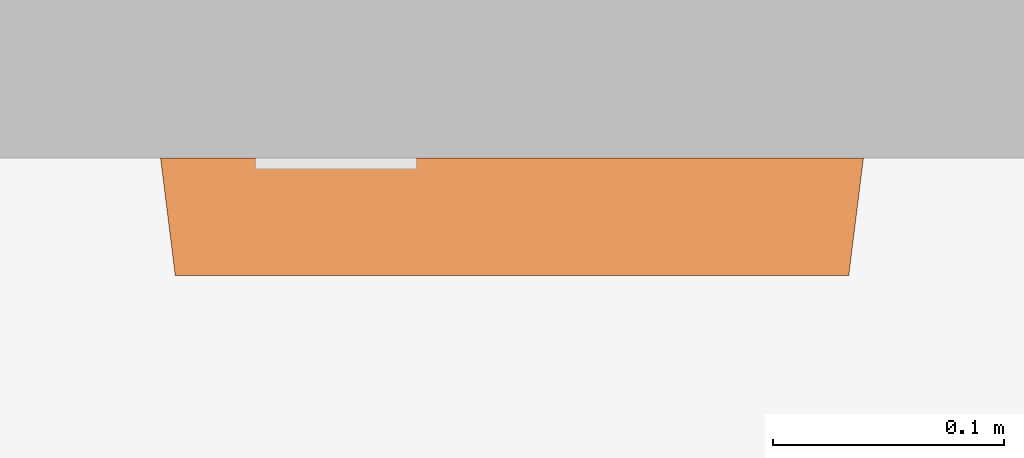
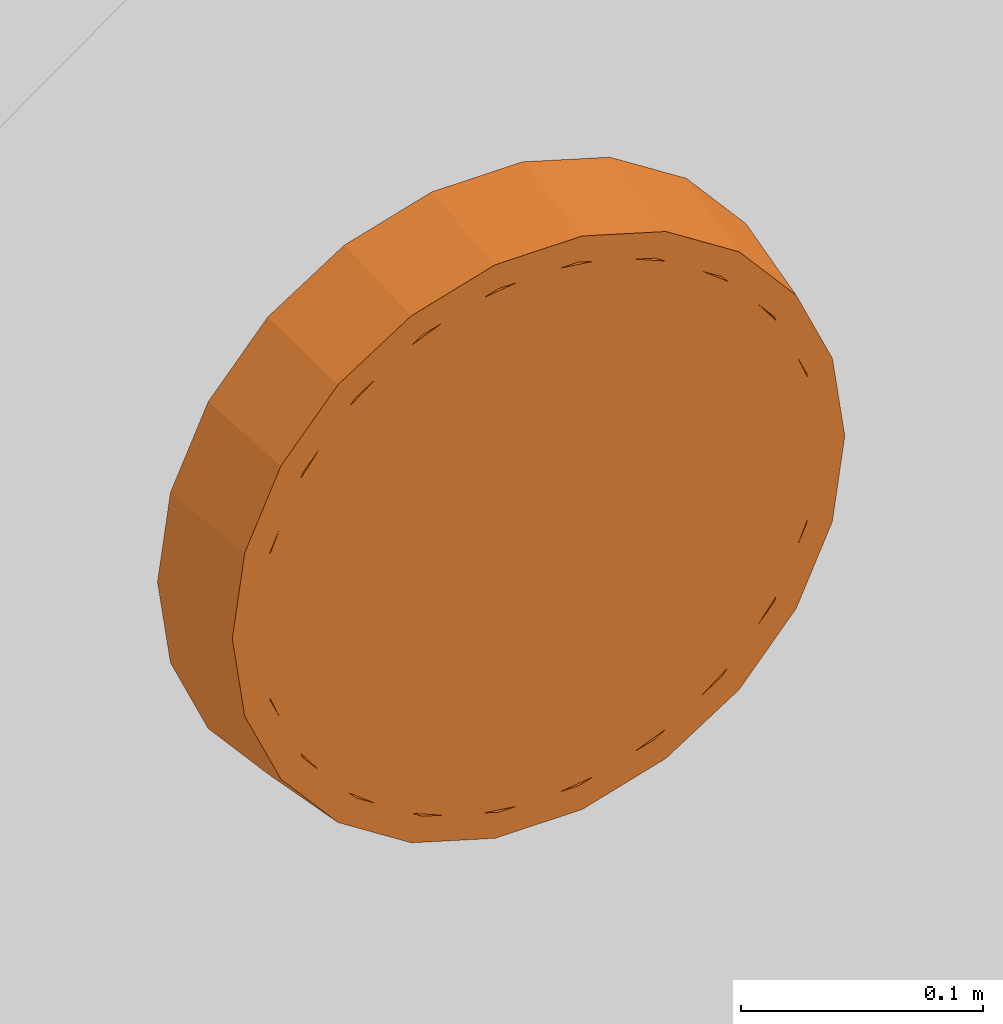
# One storey, part 14 of 14: 1 proxy.
"""IFC2X3 building model written with IfcOpenShell, lengths in feet."""

import ifcopenshell
import ifcopenshell.guid

model = None  # the IFC model being written
_history = None  # IfcOwnerHistory: only IFC2X3 demands one
_inside = {}  # id of a spatial element -> (the spatial element, [elements in it])
_under = {}  # id of a project, library or spatial element -> (it, [spatial elements below it])
_declared = {}  # id of a project -> (the project, [libraries it declares])
_typed = {}  # id of a type object -> (the type object, [elements of that type])
_made_of = {}  # id of a material, layer set ... -> (it, [elements and type objects made of it])


def new_model(schema):
    """Start an empty IFC model of exactly this schema.

    Asked for "IFC4X3", IfcOpenShell would pick the latest addendum, in which some entities
    have other attributes; the version numbers below select the first issue.
    IFC2X3 requires an IfcOwnerHistory on every rooted entity: one is made here for all.
    """
    global model, _history
    if schema == "IFC4X3":
        model = ifcopenshell.file(schema_version=(4, 3, 0, 0))
    else:
        model = ifcopenshell.file(schema=schema)
    _inside.clear()
    _under.clear()
    _declared.clear()
    _typed.clear()
    _made_of.clear()
    _history = None
    if model.schema == "IFC2X3":
        org = make("IfcOrganization", Name="unknown")
        user = make(
            "IfcPersonAndOrganization",
            ThePerson=make("IfcPerson", FamilyName="unknown"),
            TheOrganization=org,
        )
        app = make(
            "IfcApplication",
            ApplicationDeveloper=org,
            Version="unknown",
            ApplicationFullName="unknown",
            ApplicationIdentifier="unknown",
        )
        _history = make(
            "IfcOwnerHistory",
            OwningUser=user,
            OwningApplication=app,
            ChangeAction="ADDED",
            CreationDate=0,
        )
    return model


def make(cls, **values):
    """One entity of the class cls with the attributes given. An attribute that is None is left unset."""
    return model.create_entity(
        cls, **{name: value for name, value in values.items() if value is not None}
    )


def entity(cls, *values):
    """Any entity or typed value of the class cls, its attributes in the order of the schema. None: left unset."""
    e = model.create_entity(cls)
    for i, value in enumerate(values):
        if value is not None:
            e[i] = value
    return e


def rooted(cls, **values):
    """An entity with a GlobalId (a new one), such as an element, a storey or a relation."""
    return make(cls, GlobalId=ifcopenshell.guid.new(), OwnerHistory=_history, **values)


def si_unit(unit_type, name, prefix=None):
    """IfcSIUnit, for example si_unit("LENGTHUNIT", "METRE", prefix="MILLI")."""
    return make("IfcSIUnit", UnitType=unit_type, Prefix=prefix, Name=name)


def converted_unit(unit_type, name, factor, base, dimensions=None, offset=None):
    """IfcConversionBasedUnit, such as the inch: factor (a typed value) times the base unit."""
    return make(
        "IfcConversionBasedUnit"
        if offset is None
        else "IfcConversionBasedUnitWithOffset",
        ConversionOffset=offset,
        Dimensions=None
        if dimensions is None
        else entity("IfcDimensionalExponents", *dimensions),
        UnitType=unit_type,
        Name=name,
        ConversionFactor=make(
            "IfcMeasureWithUnit", ValueComponent=factor, UnitComponent=base
        ),
    )


def derived_unit(unit_type, elements):
    """IfcDerivedUnit: a product of units, each with its exponent."""
    return make(
        "IfcDerivedUnit",
        Elements=[
            make("IfcDerivedUnitElement", Unit=unit, Exponent=power)
            for unit, power in elements
        ],
        UnitType=unit_type,
    )


def assignment(units):
    """IfcUnitAssignment: the units of a project."""
    return None if units is None else make("IfcUnitAssignment", Units=units)


def point(xyz):
    """IfcCartesianPoint."""
    return None if xyz is None else make("IfcCartesianPoint", Coordinates=xyz)


def direction(xyz):
    """IfcDirection."""
    return None if xyz is None else make("IfcDirection", DirectionRatios=xyz)


def frame(location, z_axis=None, x_axis=None):
    """IfcAxis2Placement3D, a coordinate frame: its origin and axes. An axis left out is left unset."""
    return make(
        "IfcAxis2Placement3D",
        Location=point(location),
        Axis=direction(z_axis),
        RefDirection=direction(x_axis),
    )


def origin():
    """The frame at (0, 0, 0) with its axes left unset."""
    return frame((0.0, 0.0, 0.0))


def place(relative_to, where):
    """IfcLocalPlacement: puts the frame where relative to a parent placement (None: the world)."""
    return make(
        "IfcLocalPlacement", PlacementRelTo=relative_to, RelativePlacement=where
    )


def context(
    kind, dimensions, precision=None, world=None, true_north=None, identifier=None
):
    """IfcGeometricRepresentationContext, for example the 3D "Model" context."""
    return make(
        "IfcGeometricRepresentationContext",
        ContextIdentifier=identifier,
        ContextType=kind,
        CoordinateSpaceDimension=dimensions,
        Precision=precision,
        WorldCoordinateSystem=world,
        TrueNorth=true_north,
    )


def subcontext(parent, identifier, kind, view, scale=None):
    """IfcGeometricRepresentationSubContext, for example "Body" below "Model"."""
    return make(
        "IfcGeometricRepresentationSubContext",
        ContextIdentifier=identifier,
        ContextType=kind,
        ParentContext=parent,
        TargetScale=scale,
        TargetView=view,
    )


def project(units=None, contexts=None):
    """IfcProject with its units and contexts."""
    return rooted(
        "IfcProject",
        Name="project",
        RepresentationContexts=contexts,
        UnitsInContext=assignment(units),
    )


def spatial(cls, under=None, at=None, **own):
    """A site, building, storey or space (cls), placed at a placement, below another one or the project."""
    s = rooted(cls, ObjectPlacement=at, **own)
    if under is not None:
        _under.setdefault(under.id(), (under, []))[1].append(s)
    return s


def faces_of(points, faces, orient=None, outer=None):
    """IfcFace entities. A face is a list of loops; a loop is a list of indices into points, from 0.

    orient and outer hold one flag for each loop. By default every Orientation is true, the
    first loop of a face is its IfcFaceOuterBound and the others are IfcFaceBound.
    """
    made = []
    for i, loops in enumerate(faces):
        bounds = []
        for j, loop in enumerate(loops):
            is_outer = j == 0 if outer is None else outer[i][j]
            bounds.append(
                make(
                    "IfcFaceOuterBound" if is_outer else "IfcFaceBound",
                    Bound=make("IfcPolyLoop", Polygon=[points[k] for k in loop]),
                    Orientation=True if orient is None else orient[i][j],
                )
            )
        made.append(make("IfcFace", Bounds=bounds))
    return made


def faceted_brep(points, faces, orient=None, outer=None, voids=None):
    """IfcFacetedBrep: a solid bounded by flat faces; with voids (closed shells), ...WithVoids."""
    shared = [point(p) for p in points]
    hull = make("IfcClosedShell", CfsFaces=faces_of(shared, faces, orient, outer))
    if voids is None:
        return make("IfcFacetedBrep", Outer=hull)
    return make(
        "IfcFacetedBrepWithVoids",
        Outer=hull,
        Voids=[
            make(cls, CfsFaces=faces_of(shared, fs, o, b)) for cls, fs, o, b in voids
        ],
    )


def shape(context_of_items, identifier, shape_type, items):
    """IfcShapeRepresentation: the items that make up one representation, for example the "Body"."""
    return make(
        "IfcShapeRepresentation",
        ContextOfItems=context_of_items,
        RepresentationIdentifier=identifier,
        RepresentationType=shape_type,
        Items=items,
    )


def source(mapping_origin, context_of_items, identifier, shape_type, items):
    """IfcRepresentationMap: a shape defined once, which mapped items show again and again."""
    return make(
        "IfcRepresentationMap",
        MappingOrigin=mapping_origin,
        MappedRepresentation=shape(context_of_items, identifier, shape_type, items),
    )


def transform(
    local_origin,
    x_axis=None,
    y_axis=None,
    z_axis=None,
    scale=None,
    scale2=None,
    scale3=None,
    uniform=True,
):
    """IfcCartesianTransformationOperator3D, or its non-uniform kind. x_axis, y_axis, z_axis: its Axis1, 2, 3."""
    if uniform:
        return make(
            "IfcCartesianTransformationOperator3D",
            Axis1=direction(x_axis),
            Axis2=direction(y_axis),
            LocalOrigin=point(local_origin),
            Scale=scale,
            Axis3=direction(z_axis),
        )
    return make(
        "IfcCartesianTransformationOperator3DnonUniform",
        Axis1=direction(x_axis),
        Axis2=direction(y_axis),
        LocalOrigin=point(local_origin),
        Scale=scale,
        Axis3=direction(z_axis),
        Scale2=scale2,
        Scale3=scale3,
    )


def mapped(mapping_source, mapping_target):
    """IfcMappedItem: shows the shape of a source again, moved by a transform."""
    return make(
        "IfcMappedItem", MappingSource=mapping_source, MappingTarget=mapping_target
    )


def made_of(thing, what):
    """Note that an element or type object is made of a material, layer set ...; save() writes the relation."""
    if what is not None:
        _made_of.setdefault(what.id(), (what, []))[1].append(thing)
    return thing


def type_object(cls, material=None, **own):
    """A type object (cls), such as IfcWallType, which elements share."""
    return made_of(rooted(cls, **own), material)


def type_shapes(of_type, sources):
    """Give a type object the sources (RepresentationMaps) that its elements show as mapped items."""
    of_type.RepresentationMaps = sources


def element(
    cls,
    number,
    at=None,
    inside=None,
    cuts=None,
    type_object=None,
    material=None,
    context=None,
    identifier="Body",
    shape_type=None,
    held_by="IfcProductDefinitionShape",
    body=None,
    shapes=None,
    **own,
):
    """One element of the class cls, such as IfcWall. Its Tag is "e" and its number.

    at: its placement. inside: the storey or other place that contains it. cuts: it is an
    opening in that element (IfcRelVoidsElement). A single representation is given by context,
    identifier, shape_type and body (its items); several are given by shapes. held_by: the class
    of the entity that holds the representations. save() writes the other relations.
    """
    e = rooted(cls, Tag="e%d" % number, ObjectPlacement=at, **own)
    if body is not None:
        shapes = [shape(context, identifier, shape_type, body)]
    if shapes is not None:
        e.Representation = make(held_by, Representations=shapes)
    if inside is not None:
        _inside.setdefault(inside.id(), (inside, []))[1].append(e)
    if cuts is not None:
        rooted(
            "IfcRelVoidsElement", RelatingBuildingElement=cuts, RelatedOpeningElement=e
        )
    if type_object is not None:
        _typed.setdefault(type_object.id(), (type_object, []))[1].append(e)
    return made_of(e, material)


def aggregate(whole, parts):
    """IfcRelAggregates: a whole, such as a stair, and the parts it consists of."""
    return rooted("IfcRelAggregates", RelatingObject=whole, RelatedObjects=parts)


def save(model, path):
    """Write the relations noted so far, then the file.

    IfcRelAggregates (storeys below a building ...), IfcRelContainedInSpatialStructure (elements
    in a storey), IfcRelDefinesByType, IfcRelAssociatesMaterial and IfcRelDeclares: one each for
    every whole, place, type object, material and project.
    """
    for whole, parts in _under.values():
        aggregate(whole, parts)
    for where, things in _inside.values():
        rooted(
            "IfcRelContainedInSpatialStructure",
            RelatedElements=things,
            RelatingStructure=where,
        )
    for kind, things in _typed.values():
        rooted("IfcRelDefinesByType", RelatedObjects=things, RelatingType=kind)
    for what, things in _made_of.values():
        rooted("IfcRelAssociatesMaterial", RelatedObjects=things, RelatingMaterial=what)
    for by, libraries in _declared.values():
        rooted("IfcRelDeclares", RelatingContext=by, RelatedDefinitions=libraries)
    model.write(path)


model = new_model("IFC2X3")

# Units and contexts
model_context = context("Model", 3, precision=0.0001, world=origin(), true_north=direction((6.12303176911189e-17, 1.0)))
body_context = subcontext(model_context, "Body", "Model", "MODEL_VIEW")
ifc_project = project(units=[converted_unit("LENGTHUNIT", "FOOT", entity("IfcRatioMeasure", 0.3048), si_unit("LENGTHUNIT", "METRE"), dimensions=[1, 0, 0, 0, 0, 0, 0]), converted_unit("AREAUNIT", "SQUARE FOOT", entity("IfcRatioMeasure", 0.09290304), si_unit("AREAUNIT", "SQUARE_METRE"), dimensions=[2, 0, 0, 0, 0, 0, 0]), converted_unit("VOLUMEUNIT", "CUBIC FOOT", entity("IfcRatioMeasure", 0.028316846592), si_unit("VOLUMEUNIT", "CUBIC_METRE"), dimensions=[3, 0, 0, 0, 0, 0, 0]), converted_unit("PLANEANGLEUNIT", "DEGREE", entity("IfcRatioMeasure", 0.0174532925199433), si_unit("PLANEANGLEUNIT", "RADIAN"), dimensions=[0, 0, 0, 0, 0, 0, 0]), si_unit("MASSUNIT", "GRAM", prefix="KILO"), derived_unit("MASSDENSITYUNIT", [(si_unit("MASSUNIT", "GRAM", prefix="KILO"), 1), (si_unit("LENGTHUNIT", "METRE"), -3)]), si_unit("TIMEUNIT", "SECOND"), si_unit("FREQUENCYUNIT", "HERTZ"), si_unit("THERMODYNAMICTEMPERATUREUNIT", "DEGREE_CELSIUS"), derived_unit("THERMALTRANSMITTANCEUNIT", [(si_unit("MASSUNIT", "GRAM", prefix="KILO"), 1), (si_unit("THERMODYNAMICTEMPERATUREUNIT", "KELVIN"), -1), (si_unit("TIMEUNIT", "SECOND"), -3)]), derived_unit("VOLUMETRICFLOWRATEUNIT", [(si_unit("LENGTHUNIT", "METRE"), 3), (si_unit("TIMEUNIT", "SECOND"), -1)]), si_unit("ELECTRICCURRENTUNIT", "AMPERE"), si_unit("ELECTRICVOLTAGEUNIT", "VOLT"), si_unit("POWERUNIT", "WATT"), si_unit("FORCEUNIT", "NEWTON"), si_unit("ILLUMINANCEUNIT", "LUX"), si_unit("LUMINOUSFLUXUNIT", "LUMEN"), si_unit("LUMINOUSINTENSITYUNIT", "CANDELA"), derived_unit("USERDEFINED", [(si_unit("MASSUNIT", "GRAM", prefix="KILO"), -1), (si_unit("LENGTHUNIT", "METRE"), -2), (si_unit("TIMEUNIT", "SECOND"), 3), (si_unit("LUMINOUSFLUXUNIT", "LUMEN"), 1)]), derived_unit("LINEARVELOCITYUNIT", [(si_unit("LENGTHUNIT", "METRE"), 1), (si_unit("TIMEUNIT", "SECOND"), -1)]), si_unit("PRESSUREUNIT", "PASCAL"), derived_unit("USERDEFINED", [(si_unit("LENGTHUNIT", "METRE"), -2), (si_unit("MASSUNIT", "GRAM", prefix="KILO"), 1), (si_unit("TIMEUNIT", "SECOND"), -2)])], contexts=[model_context])

# Site, building, storey, space
site_placement = place(None, origin())
site = spatial("IfcSite", under=ifc_project, at=site_placement, Name="Default", CompositionType="ELEMENT")
building_placement = place(site_placement, origin())
building = spatial("IfcBuilding", under=site, at=building_placement, Name="OUTPATIENT / PACT CLINIC (Ch. 265)", CompositionType="ELEMENT")
storey_placement = place(building_placement, origin())
storey = spatial("IfcBuildingStorey", under=building, at=storey_placement, Name="DATUM", CompositionType="ELEMENT", Elevation=0.0)
space_placement = place(storey_placement, origin())
space = spatial("IfcSpace", under=storey, at=space_placement, Name="XDUS1", CompositionType="ELEMENT", InteriorOrExteriorSpace="INTERNAL")

# Proxy
building_element_proxy_type = type_object("IfcBuildingElementProxyType", Name="F3200 - Clock, Battery, 12in Dia", PredefinedType="NOTDEFINED")
shared_shape = source(origin(), body_context, "Body", "Brep", [
    faceted_brep([(0.0527623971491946, -0.166666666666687, -0.0087350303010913), (0.143371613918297, -0.166666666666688, 0.0607918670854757), (0.212898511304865, -0.16666666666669, 0.151401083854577), (0.256604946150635, -0.166666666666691, 0.256917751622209), (0.271512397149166, -0.166666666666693, 0.370151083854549), (0.256604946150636, -0.166666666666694, 0.483384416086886), (0.212898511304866, -0.166666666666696, 0.588901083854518), (0.143371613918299, -0.166666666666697, 0.67951030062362), (0.052762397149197, -0.166666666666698, 0.749037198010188), (-0.0527542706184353, -0.166666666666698, 0.792743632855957), (-0.165987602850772, -0.166666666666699, 0.807651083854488), (-0.279220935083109, -0.166666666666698, 0.792743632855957), (-0.384737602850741, -0.166666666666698, 0.749037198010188), (-0.475346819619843, -0.166666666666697, 0.679510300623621), (-0.544873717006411, -0.166666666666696, 0.588901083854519), (-0.588580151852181, -0.166666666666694, 0.483384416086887), (-0.603487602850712, -0.166666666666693, 0.37015108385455), (-0.588580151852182, -0.166666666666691, 0.256917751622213), (-0.544873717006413, -0.16666666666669, 0.151401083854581), (-0.475346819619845, -0.166666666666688, 0.0607918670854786), (-0.384737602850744, -0.166666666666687, -0.0087350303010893), (-0.279220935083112, -0.166666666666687, -0.052441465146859), (-0.165987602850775, -0.166666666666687, -0.0673489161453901), (-0.0527542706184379, -0.166666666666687, -0.0524414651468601), (0.256604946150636, -0.145833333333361, 0.483384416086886), (0.271512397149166, -0.145833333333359, 0.370151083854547), (0.256604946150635, -0.145833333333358, 0.256917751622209), (0.212898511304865, -0.145833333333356, 0.151401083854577), (0.143371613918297, -0.145833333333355, 0.0607918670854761), (0.0527623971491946, -0.145833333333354, -0.00873503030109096), (-0.0527542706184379, -0.145833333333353, -0.0524414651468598), (-0.165987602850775, -0.145833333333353, -0.0673489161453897), (-0.279220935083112, -0.145833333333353, -0.0524414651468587), (-0.384737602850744, -0.145833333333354, -0.00873503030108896), (-0.475346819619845, -0.145833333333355, 0.060791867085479), (-0.544873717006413, -0.145833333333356, 0.151401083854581), (-0.588580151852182, -0.145833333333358, 0.256917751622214), (-0.603487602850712, -0.145833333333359, 0.37015108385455), (-0.588580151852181, -0.145833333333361, 0.483384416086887), (-0.544873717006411, -0.145833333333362, 0.588901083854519), (-0.475346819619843, -0.145833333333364, 0.679510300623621), (-0.384737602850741, -0.145833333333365, 0.749037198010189), (-0.279220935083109, -0.145833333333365, 0.792743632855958), (-0.165987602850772, -0.145833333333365, 0.807651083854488), (-0.0527542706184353, -0.145833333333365, 0.792743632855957), (0.052762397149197, -0.145833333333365, 0.749037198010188), (0.143371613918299, -0.145833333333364, 0.67951030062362), (0.212898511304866, -0.145833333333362, 0.588901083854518)], [[[0, 1, 2, 3, 4, 5, 6, 7, 8, 9, 10, 11, 12, 13, 14, 15, 16, 17, 18, 19, 20, 21, 22, 23]], [[24, 25, 26, 27, 28, 29, 30, 31, 32, 33, 34, 35, 36, 37, 38, 39, 40, 41, 42, 43, 44, 45, 46, 47]], [[36, 17, 16, 37]], [[35, 18, 17, 36]], [[20, 19, 34, 33]], [[35, 34, 19, 18]], [[21, 20, 33, 32]], [[22, 21, 32, 31]], [[30, 23, 22, 31]], [[29, 0, 23, 30]], [[2, 1, 28, 27]], [[29, 28, 1, 0]], [[3, 2, 27, 26]], [[4, 3, 26, 25]], [[24, 5, 4, 25]], [[47, 6, 5, 24]], [[8, 7, 46, 45]], [[47, 46, 7, 6]], [[9, 8, 45, 44]], [[10, 9, 44, 43]], [[11, 10, 43, 42]], [[12, 11, 42, 41]], [[14, 39, 38, 15]], [[15, 38, 37, 16]], [[12, 41, 40, 13]], [[40, 39, 14, 13]]]),
    faceted_brep([(-0.493417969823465, 0.0, -0.00772370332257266), (-0.586614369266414, 0.0, 0.0998306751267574), (-0.165987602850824, 0.0, 0.370151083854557), (-0.373695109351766, 0.0, -0.0846649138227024), (-0.645734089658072, 0.0, 0.229284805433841), (-0.665987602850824, 0.0, 0.370151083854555), (-0.645734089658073, 0.0, 0.51101736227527), (-0.586614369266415, 0.0, 0.640471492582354), (-0.493417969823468, 0.0, 0.748025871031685), (-0.373695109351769, 0.0, 0.824967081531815), (-0.237145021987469, 0.0, 0.865061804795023), (-0.0948301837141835, 0.0, 0.865061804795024), (0.0417199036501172, 0.0, 0.824967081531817), (0.161442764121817, 0.0, 0.748025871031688), (0.254639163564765, 0.0, 0.640471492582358), (0.313758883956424, 0.0, 0.511017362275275), (0.334012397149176, 0.0, 0.370151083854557), (0.313758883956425, 0.0, 0.229284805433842), (0.254639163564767, 0.0, 0.0998306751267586), (0.161442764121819, 0.0, -0.00772370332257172), (0.0417199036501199, 0.0, -0.0846649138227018), (-0.0948301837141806, 0.0, -0.124759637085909), (-0.237145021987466, 0.0, -0.124759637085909), (-0.165987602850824, -0.145833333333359, 0.370151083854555), (-0.534036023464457, -0.145833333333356, 0.133620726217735), (-0.452489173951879, -0.145833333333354, 0.0395106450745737), (-0.585765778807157, -0.145833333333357, 0.246893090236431), (-0.347731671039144, -0.145833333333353, -0.0278129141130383), (-0.228250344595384, -0.145833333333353, -0.0628957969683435), (-0.603487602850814, -0.145833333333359, 0.370151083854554), (-0.103724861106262, -0.145833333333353, -0.0628957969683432), (0.0157564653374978, -0.145833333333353, -0.0278129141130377), (0.120513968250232, -0.145833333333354, 0.0395106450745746), (0.20206081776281, -0.145833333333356, 0.133620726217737), (0.253790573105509, -0.145833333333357, 0.246893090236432), (0.271512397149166, -0.145833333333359, 0.370151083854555), (-0.585765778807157, -0.145833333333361, 0.493409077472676), (-0.534036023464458, -0.145833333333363, 0.606681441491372), (-0.452489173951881, -0.145833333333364, 0.700791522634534), (-0.347731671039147, -0.145833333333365, 0.768115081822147), (-0.228250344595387, -0.145833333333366, 0.803197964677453), (0.253790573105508, -0.145833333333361, 0.49340907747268), (0.202060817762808, -0.145833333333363, 0.606681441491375), (0.12051396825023, -0.145833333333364, 0.700791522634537), (0.0157564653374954, -0.145833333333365, 0.768115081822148), (-0.103724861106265, -0.145833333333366, 0.803197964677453), (0.253790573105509, -0.166666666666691, 0.246893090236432), (0.271512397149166, -0.166666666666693, 0.370151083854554), (0.20206081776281, -0.166666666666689, 0.133620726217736), (-0.103724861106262, -0.166666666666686, -0.0628957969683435), (0.0157564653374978, -0.166666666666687, -0.0278129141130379), (0.120513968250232, -0.166666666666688, 0.0395106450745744), (-0.228250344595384, -0.166666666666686, -0.0628957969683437), (-0.452489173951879, -0.166666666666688, 0.0395106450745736), (-0.347731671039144, -0.166666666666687, -0.0278129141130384), (-0.603487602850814, -0.166666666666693, 0.370151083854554), (-0.585765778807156, -0.166666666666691, 0.246893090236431), (-0.534036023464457, -0.166666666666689, 0.133620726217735), (-0.585765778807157, -0.166666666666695, 0.493409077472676), (-0.534036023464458, -0.166666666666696, 0.606681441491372), (-0.347731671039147, -0.166666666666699, 0.768115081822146), (-0.452489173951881, -0.166666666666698, 0.700791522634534), (-0.228250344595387, -0.166666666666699, 0.803197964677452), (-0.103724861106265, -0.166666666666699, 0.803197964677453), (0.0157564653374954, -0.166666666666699, 0.768115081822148), (0.12051396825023, -0.166666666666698, 0.700791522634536), (0.253790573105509, -0.166666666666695, 0.493409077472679), (0.202060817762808, -0.166666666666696, 0.606681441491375), (-0.62574465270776, -0.166666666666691, 0.235154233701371), (-0.64515426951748, -0.166666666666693, 0.370151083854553), (-0.569088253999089, -0.166666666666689, 0.111094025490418), (-0.479775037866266, -0.166666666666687, 0.00802107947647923), (-0.365040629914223, -0.166666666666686, -0.0657142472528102), (-0.234180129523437, -0.166666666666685, -0.104138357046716), (-0.0977950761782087, -0.166666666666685, -0.104138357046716), (0.0330654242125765, -0.166666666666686, -0.0657142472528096), (0.147799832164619, -0.166666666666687, 0.00802107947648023), (0.237113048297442, -0.166666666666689, 0.11109402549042), (0.293769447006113, -0.166666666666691, 0.235154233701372), (0.313179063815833, -0.166666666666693, 0.370151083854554), (0.293769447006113, -0.166666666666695, 0.50514793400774), (0.237113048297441, -0.166666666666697, 0.629208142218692), (0.147799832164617, -0.166666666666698, 0.732281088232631), (0.0330654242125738, -0.1666666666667, 0.80601641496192), (-0.0977950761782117, -0.1666666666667, 0.844440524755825), (-0.23418012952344, -0.1666666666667, 0.844440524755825), (-0.365040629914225, -0.1666666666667, 0.806016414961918), (-0.479775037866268, -0.166666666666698, 0.732281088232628), (-0.569088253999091, -0.166666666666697, 0.629208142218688), (-0.625744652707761, -0.166666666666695, 0.505147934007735)], [[[0, 1, 2]], [[0, 2, 3]], [[4, 2, 1]], [[2, 4, 5]], [[5, 6, 2]], [[2, 6, 7]], [[2, 7, 8]], [[2, 8, 9]], [[9, 10, 2]], [[11, 2, 10]], [[2, 11, 12]], [[2, 12, 13]], [[14, 2, 13]], [[2, 14, 15]], [[15, 16, 2]], [[2, 16, 17]], [[2, 17, 18]], [[18, 19, 2]], [[19, 20, 2]], [[21, 2, 20]], [[2, 21, 22]], [[22, 3, 2]], [[23, 24, 25]], [[24, 23, 26]], [[27, 23, 25]], [[23, 27, 28]], [[29, 26, 23]], [[28, 30, 23]], [[31, 23, 30]], [[23, 31, 32]], [[23, 32, 33]], [[33, 34, 23]], [[34, 35, 23]], [[23, 36, 29]], [[37, 36, 23]], [[38, 37, 23]], [[39, 38, 23]], [[23, 40, 39]], [[23, 35, 41]], [[41, 42, 23]], [[43, 23, 42]], [[43, 44, 23]], [[44, 45, 23]], [[40, 23, 45]], [[46, 47, 35, 34]], [[46, 34, 33, 48]], [[31, 30, 49, 50]], [[32, 31, 50, 51]], [[51, 48, 33, 32]], [[30, 28, 52, 49]], [[27, 25, 53, 54]], [[28, 27, 54, 52]], [[29, 55, 56, 26]], [[26, 56, 57, 24]], [[24, 57, 53, 25]], [[55, 29, 36, 58]], [[58, 36, 37, 59]], [[60, 61, 38, 39]], [[59, 37, 38, 61]], [[39, 40, 62, 60]], [[40, 45, 63, 62]], [[64, 63, 45, 44]], [[64, 44, 43, 65]], [[41, 35, 47, 66]], [[42, 41, 66, 67]], [[67, 65, 43, 42]], [[68, 55, 69]], [[56, 55, 68]], [[68, 70, 56]], [[70, 57, 56]], [[71, 57, 70]], [[57, 71, 53]], [[72, 53, 71]], [[54, 53, 72]], [[72, 73, 54]], [[73, 52, 54]], [[49, 52, 73]], [[73, 74, 49]], [[74, 50, 49]], [[75, 50, 74]], [[50, 75, 51]], [[76, 51, 75]], [[48, 51, 76]], [[76, 77, 48]], [[77, 46, 48]], [[78, 46, 77]], [[46, 78, 47]], [[78, 79, 47]], [[79, 80, 47]], [[66, 47, 80]], [[80, 81, 66]], [[66, 81, 67]], [[82, 67, 81]], [[67, 82, 65]], [[65, 82, 83]], [[64, 65, 83]], [[83, 84, 64]], [[64, 84, 63]], [[85, 63, 84]], [[63, 85, 62]], [[62, 85, 60]], [[86, 60, 85]], [[60, 86, 61]], [[61, 86, 87]], [[59, 61, 87]], [[87, 88, 59]], [[59, 88, 58]], [[89, 58, 88]], [[55, 89, 69]], [[58, 89, 55]], [[78, 17, 16, 79]], [[77, 18, 17, 78]], [[19, 76, 75, 20]], [[77, 76, 19, 18]], [[20, 75, 74, 21]], [[74, 73, 22, 21]], [[22, 73, 72, 3]], [[0, 3, 72, 71]], [[4, 1, 70, 68]], [[70, 1, 0, 71]], [[5, 4, 68, 69]], [[89, 6, 5, 69]], [[88, 7, 6, 89]], [[8, 87, 86, 9]], [[88, 87, 8, 7]], [[9, 86, 85, 10]], [[85, 84, 11, 10]], [[83, 12, 11, 84]], [[82, 13, 12, 83]], [[14, 81, 80, 15]], [[82, 81, 14, 13]], [[15, 80, 79, 16]]]),
])
type_shapes(building_element_proxy_type, [shared_shape])
proxy_placement = place(space_placement, frame((339.840818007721, -843.093724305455, 6.5)))
element("IfcBuildingElementProxy", 1, at=proxy_placement, inside=space, type_object=building_element_proxy_type, Name="F3200 - Clock, Battery, 12in Dia:F3200 - Clock, Battery, 12in Dia", ObjectType="F3200 - Clock, Battery, 12in Dia", context=body_context, shape_type="MappedRepresentation", body=[
    mapped(shared_shape, transform((0.0, 0.0, 0.0), scale=1.0)),
])

save(model, "model.ifc")
